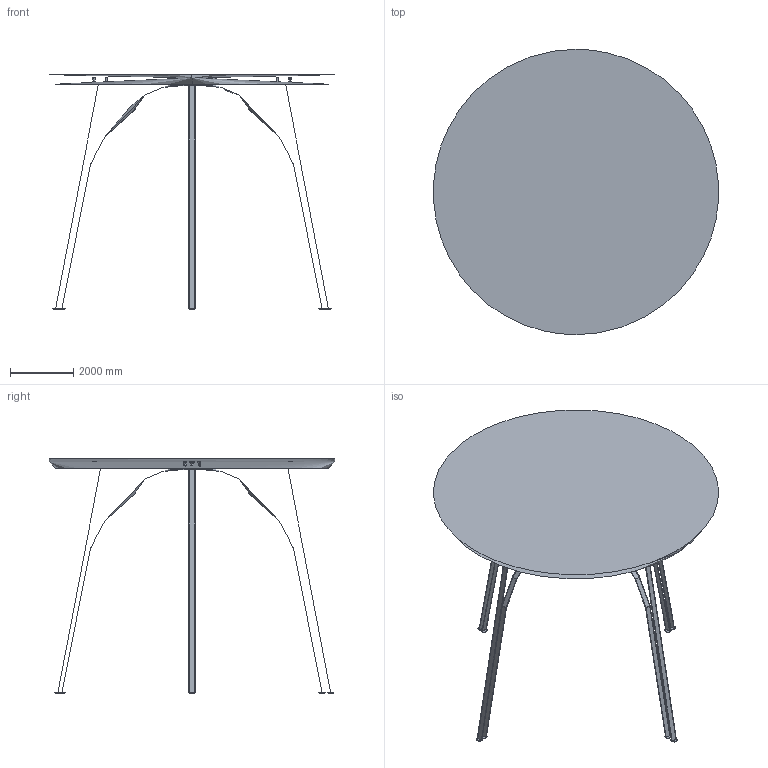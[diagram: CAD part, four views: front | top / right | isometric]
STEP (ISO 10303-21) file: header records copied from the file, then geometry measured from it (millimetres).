
FILE_DESCRIPTION(/* description */ (''),/* implementation_level */ '2;1');
FILE_NAME(/* name */ 'Tree Dining table (Ø90 cm)',/* time_stamp */ '2020-02-18T10:16:23+01:00',/* author */ (''),/* organization */ (''),/* preprocessor_version */ 'ST-DEVELOPER v15',/* originating_system */ '',/* authorisation */ '');
FILE_SCHEMA (('AUTOMOTIVE_DESIGN'));
Length unit declared in the file: millimetre
Products named in the file (1): Document
Bounding box: 8983.67 x 9000 x 7399.95 mm (x, y, z)
Volume: 18898731008.1 mm3; surface area: 211474273.1 mm2
Topology: 42 solids, 50 shells, 432 faces, 968 edges, 644 vertices
Faces by surface type: bspline 328, plane 104
Entity records: 41102 total; most frequent: CARTESIAN_POINT 35261, ORIENTED_EDGE 1812, EDGE_CURVE 926, VERTEX_POINT 606, EDGE_LOOP 574, ADVANCED_FACE 432, FACE_OUTER_BOUND 432, B_SPLINE_CURVE_WITH_KNOTS 250
